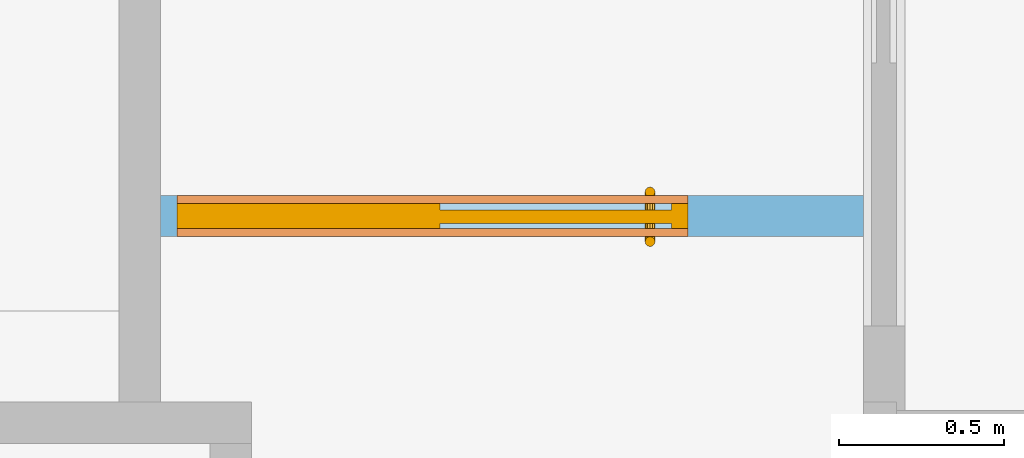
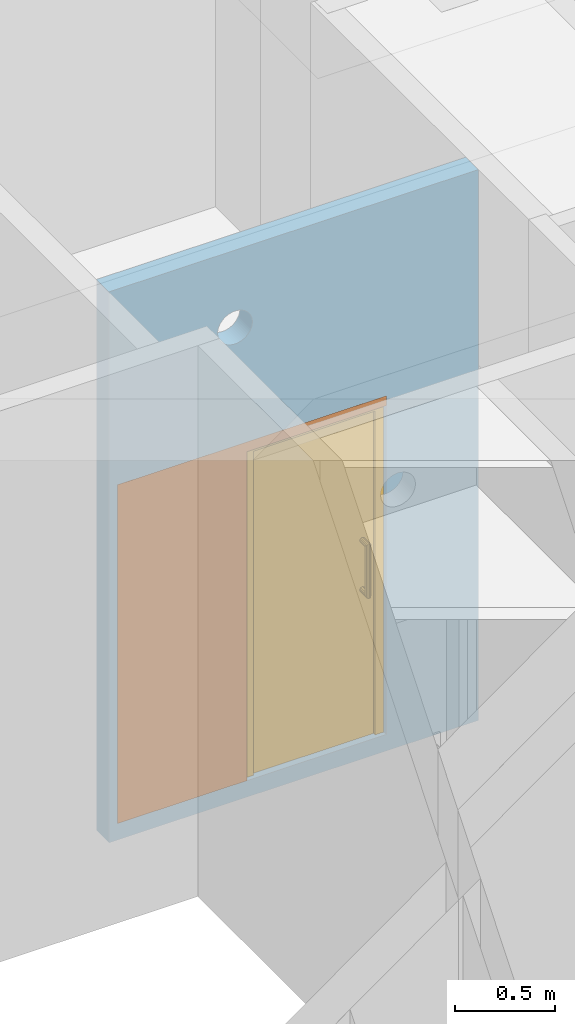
# One storey, part 98 of 140: 1 door, 1 proxy, 2 openings, plus 1 element that does not belong to this part.
"""IFC4 building model written with IfcOpenShell, lengths in metres."""

from ifc_helpers import new_model, entity, si_unit, converted_unit, derived_unit, frame, frame_2d, origin, origin_with_axes, place, context, subcontext, project, spatial, polyline, rectangle, outline, extrude, closed_shell, open_shell, faceted_brep, surface_model, source, transform, mapped, material, layer, layer_set, layer_usage, type_object, element, fill, save


model = new_model("IFC4")

# Units and contexts
model_context = context("Model", 3, precision=1e-05, world=origin())
body_context = subcontext(model_context, "Body", "Model", "MODEL_VIEW")
ifc_project = project(units=[si_unit("LENGTHUNIT", "METRE"), si_unit("AREAUNIT", "SQUARE_METRE"), si_unit("VOLUMEUNIT", "CUBIC_METRE"), si_unit("MASSUNIT", "GRAM", prefix="KILO"), converted_unit("PLANEANGLEUNIT", "DEGREE", entity("IfcPlaneAngleMeasure", 0.0174532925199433), si_unit("PLANEANGLEUNIT", "RADIAN"), dimensions=[0, 0, 0, 0, 0, 0, 0]), derived_unit("THERMALTRANSMITTANCEUNIT", [(si_unit("POWERUNIT", "WATT"), 1), (si_unit("THERMODYNAMICTEMPERATUREUNIT", "KELVIN"), -1), (si_unit("LENGTHUNIT", "METRE"), -2)]), derived_unit("VOLUMETRICFLOWRATEUNIT", [(si_unit("LENGTHUNIT", "METRE"), 3), (converted_unit("TIMEUNIT", "hour", entity("IfcTimeMeasure", 3600.0), si_unit("TIMEUNIT", "SECOND"), dimensions=[0, 0, 1, 0, 0, 0, 0]), -1), (si_unit("LENGTHUNIT", "METRE"), -1)])], contexts=[model_context])

# Site, building, storey
site_placement = place(None, origin())
site = spatial("IfcSite", under=ifc_project, at=site_placement, Name="3. ASŘ", CompositionType="ELEMENT")
building_placement = place(site_placement, origin())
building = spatial("IfcBuilding", under=site, at=building_placement, Name="Pavilon C", CompositionType="ELEMENT")
storey_placement = place(building_placement, origin())
storey = spatial("IfcBuildingStorey", under=building, at=storey_placement, Name="Půdorys 1.NP", CompositionType="ELEMENT", Elevation=0.0)

# Wall, openings, door, proxy
ifc_material_1 = material(Name="SDK - 1 KCE + DVOJITÉ OPLÁŠTĚNÍ")
ifc_layer = layer(ifc_material_1, 0.125)
ifc_layer_set = layer_set([ifc_layer])
ifc_layer_usage = layer_usage(ifc_layer_set, "AXIS2", "POSITIVE", 0.0)
wall_placement = place(storey_placement, frame((39.625, 20.25, -0.1), z_axis=(0.0, 0.0, 1.0), x_axis=(-1.0, 0.0, 0.0)))
wall = element("IfcWall", 1, at=wall_placement, inside=storey, material=ifc_layer_usage, Name="SDK - 1 KCE + DVOJITÉ OPLÁŠTĚNÍ", context=body_context, shape_type="SweptSolid", body=[
    extrude(rectangle(XDim=2.125, YDim=0.125, at=frame_2d((1.0625, 0.0625), x_axis=(1.0, 0.0))), origin_with_axes(), (0.0, 0.0, 1.0), 3.35),
])
opening_1_placement = place(wall_placement, frame((0.53, 0.0, 0.1), z_axis=(0.0, 1.0, 0.0), x_axis=(0.0, 0.0, 1.0)))
opening_1 = element("IfcOpeningElement", 2, at=opening_1_placement, cuts=wall, Name="Dveřní otvor", ObjectType="Opening", context=body_context, shape_type="SweptSolid", body=[
    extrude(outline(polyline([(0.0, 1.545), (2.06, 1.545), (2.06, 0.0), (0.0, 0.0), (0.0, 1.545)])), origin_with_axes(), (0.0, 0.0, 1.0), 0.125),
])
opening_2_placement = place(wall_placement, frame((1.5, 0.125, 2.78), z_axis=(0.0, -1.0, 0.0), x_axis=(0.0, 0.0, 1.0)))
element("IfcOpeningElement", 3, at=opening_2_placement, cuts=wall, Name="VZT", ObjectType="Opening", context=body_context, shape_type="SweptSolid", body=[
    extrude(outline(polyline([(0.0999999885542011, 0.0), (0.0895471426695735, 0.000547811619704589), (0.0792088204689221, 0.00218524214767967), (0.0690982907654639, 0.0048943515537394), (0.0593263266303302, 0.00864545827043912), (0.0499999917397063, 0.0133974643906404), (0.0412214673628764, 0.0190983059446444), (0.0330869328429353, 0.0256855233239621), (0.0256855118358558, 0.0330869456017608), (0.0190982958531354, 0.0412214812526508), (0.0133974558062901, 0.0500000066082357), (0.00864545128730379, 0.0593263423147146), (0.00489434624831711, 0.0690983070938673), (0.00218523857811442, 0.0792088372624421), (0.000547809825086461, 0.0895471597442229), (0.0, 0.100000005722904), (0.000547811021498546, 0.110452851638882), (0.00218524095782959, 0.120791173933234), (0.00489434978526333, 0.130901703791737), (0.00864545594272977, 0.140673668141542), (0.0133974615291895, 0.150000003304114), (0.0190983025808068, 0.158778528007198), (0.0256855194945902, 0.166913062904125), (0.0330869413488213, 0.174314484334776), (0.0412214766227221, 0.180901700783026), (0.0500000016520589, 0.186602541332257), (0.0593263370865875, 0.191354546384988), (0.0690983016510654, 0.195105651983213), (0.0792088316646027, 0.197814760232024), (0.0895471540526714, 0.19945218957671), (0.1, 0.2), (0.110452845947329, 0.19945218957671), (0.120791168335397, 0.197814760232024), (0.130901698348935, 0.195105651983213), (0.140673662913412, 0.191354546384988), (0.149999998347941, 0.186602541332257), (0.158778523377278, 0.180901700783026), (0.166913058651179, 0.174314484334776), (0.17431448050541, 0.166913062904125), (0.180901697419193, 0.158778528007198), (0.18660253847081, 0.150000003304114), (0.19135454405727, 0.140673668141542), (0.195105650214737, 0.130901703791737), (0.19781475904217, 0.120791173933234), (0.199452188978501, 0.110452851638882), (0.2, 0.100000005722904), (0.199452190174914, 0.0895471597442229), (0.197814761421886, 0.0792088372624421), (0.195105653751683, 0.0690983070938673), (0.191354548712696, 0.0593263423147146), (0.18660254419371, 0.0500000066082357), (0.180901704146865, 0.0412214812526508), (0.174314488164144, 0.0330869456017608), (0.166913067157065, 0.0256855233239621), (0.158778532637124, 0.0190983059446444), (0.150000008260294, 0.0133974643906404), (0.14067367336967, 0.00864545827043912), (0.130901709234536, 0.0048943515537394), (0.120791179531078, 0.00218524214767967), (0.110452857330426, 0.000547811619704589), (0.0999999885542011, 0.0)])), origin_with_axes(), (0.0, 0.0, 1.0), 0.125),
])
door_type = type_object("IfcDoorType", Name="I.DP06", OperationType="NOTDEFINED", ParameterTakesPrecedence=False, PredefinedType="DOOR")
shared_shape = source(origin_with_axes(), body_context, "Body", "SurfaceModel", [
    surface_model("IfcShellBasedSurfaceModel", [(0.0, 0.13, 2.06), (0.0, 0.13, -4.59242549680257e-18), (0.795, 0.13, -4.59242549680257e-18), (0.795, 0.13, 2.06), (0.0, 0.0549999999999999, 4.59242549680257e-18), (0.0, 0.0550000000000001, 2.06), (0.795, 0.0550000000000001, 2.06), (0.795, 0.0549999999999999, 4.59242549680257e-18)], [closed_shell([[[0, 1, 2, 3]], [[4, 5, 6, 7]], [[1, 0, 5, 4]], [[2, 1, 4, 7]], [[3, 2, 7, 6]], [[0, 3, 6, 5]]], orient=[[False], [False], [False], [False], [False], [False]])]),
    surface_model("IfcShellBasedSurfaceModel", [(1.495, 0.13, 2.06), (1.495, 0.13, -4.59242549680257e-18), (1.545, 0.13, -4.59242549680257e-18), (1.545, 0.13, 2.06), (1.495, 0.0549999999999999, 4.59242549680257e-18), (1.495, 0.0550000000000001, 2.06), (1.545, 0.0550000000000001, 2.06), (1.545, 0.0549999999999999, 4.59242549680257e-18)], [closed_shell([[[0, 1, 2, 3]], [[4, 5, 6, 7]], [[1, 0, 5, 4]], [[2, 1, 4, 7]], [[3, 2, 7, 6]], [[0, 3, 6, 5]]], orient=[[False], [False], [False], [False], [False], [False]])]),
    surface_model("IfcShellBasedSurfaceModel", [(0.795, 0.13, 2.06), (0.795, 0.13, 1.97), (1.495, 0.13, 1.97), (1.495, 0.13, 2.06), (0.795, 0.0550000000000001, 1.97), (0.795, 0.0550000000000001, 2.06), (1.495, 0.0550000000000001, 2.06), (1.495, 0.0550000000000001, 1.97)], [closed_shell([[[0, 1, 2, 3]], [[4, 5, 6, 7]], [[1, 0, 5, 4]], [[2, 1, 4, 7]], [[3, 2, 7, 6]], [[0, 3, 6, 5]]], orient=[[False], [False], [False], [False], [False], [False]])]),
    surface_model("IfcShellBasedSurfaceModel", [(0.795, 0.11, 1.97), (0.795, 0.11, -2.14313189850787e-18), (1.495, 0.11, -2.14313189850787e-18), (1.495, 0.11, 1.97), (0.795, 0.0699999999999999, 2.75545529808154e-18), (0.795, 0.0700000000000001, 1.97), (1.495, 0.0700000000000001, 1.97), (1.495, 0.0699999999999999, 2.75545529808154e-18)], [closed_shell([[[0, 1, 2, 3]], [[4, 5, 6, 7]], [[1, 0, 5, 4]], [[2, 1, 4, 7]], [[3, 2, 7, 6]], [[0, 3, 6, 5]]], orient=[[False], [False], [False], [False], [False], [False]])]),
    surface_model("IfcShellBasedSurfaceModel", [(1.445, 0.07, 1.2), (1.44299038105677, 0.07, 1.2075), (1.4375, 0.07, 1.21299038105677), (1.43, 0.07, 1.215), (1.4225, 0.07, 1.21299038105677), (1.41700961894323, 0.07, 1.2075), (1.415, 0.07, 1.2), (1.41700961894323, 0.07, 1.1925), (1.4225, 0.07, 1.18700961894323), (1.43, 0.07, 1.185), (1.4375, 0.07, 1.18700961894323), (1.44299038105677, 0.07, 1.1925), (1.445, 0.015, 1.2), (1.44299038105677, 0.00750000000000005, 1.2075), (1.4375, 0.00200961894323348, 1.21299038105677), (1.43, 5.6843418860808e-17, 1.215), (1.4225, 0.00200961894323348, 1.21299038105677), (1.41700961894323, 0.00750000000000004, 1.2075), (1.415, 0.015, 1.2), (1.41700961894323, 0.0225, 1.1925), (1.4225, 0.0279903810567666, 1.18700961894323), (1.43, 0.03, 1.185), (1.4375, 0.0279903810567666, 1.18700961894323), (1.44299038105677, 0.0225000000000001, 1.1925), (1.445, 0.015, 0.9), (1.44299038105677, 0.0075, 0.8925), (1.4375, 0.00200961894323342, 0.887009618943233), (1.43, 0.0, 0.885), (1.4225, 0.00200961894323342, 0.887009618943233), (1.41700961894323, 0.00749999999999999, 0.8925), (1.415, 0.015, 0.9), (1.41700961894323, 0.0225, 0.9075), (1.4225, 0.0279903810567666, 0.912990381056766), (1.43, 0.03, 0.915), (1.4375, 0.0279903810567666, 0.912990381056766), (1.44299038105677, 0.0225, 0.9075), (1.445, 0.07, 0.9), (1.44299038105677, 0.07, 0.8925), (1.4375, 0.07, 0.887009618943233), (1.43, 0.07, 0.885), (1.4225, 0.07, 0.887009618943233), (1.41700961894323, 0.07, 0.8925), (1.415, 0.07, 0.9), (1.41700961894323, 0.07, 0.9075), (1.4225, 0.07, 0.912990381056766), (1.43, 0.07, 0.915), (1.4375, 0.07, 0.912990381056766), (1.44299038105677, 0.07, 0.9075)], [open_shell([[[0, 1, 2, 3, 4, 5, 6, 7, 8, 9, 10, 11]], [[0, 12, 13, 1]], [[1, 13, 14, 2]], [[2, 14, 15, 3]], [[3, 15, 16, 4]], [[4, 16, 17, 5]], [[5, 17, 18, 6]], [[6, 18, 19, 7]], [[7, 19, 20, 8]], [[8, 20, 21, 9]], [[9, 21, 22, 10]], [[10, 22, 23, 11]], [[11, 23, 12, 0]], [[12, 24, 25, 13]], [[13, 25, 26, 14]], [[14, 26, 27, 15]], [[15, 27, 28, 16]], [[16, 28, 29, 17]], [[17, 29, 30, 18]], [[18, 30, 31, 19]], [[19, 31, 32, 20]], [[20, 32, 33, 21]], [[21, 33, 34, 22]], [[22, 34, 35, 23]], [[23, 35, 24, 12]], [[24, 36, 37, 25]], [[25, 37, 38, 26]], [[26, 38, 39, 27]], [[27, 39, 40, 28]], [[28, 40, 41, 29]], [[29, 41, 42, 30]], [[30, 42, 43, 31]], [[31, 43, 44, 32]], [[32, 44, 45, 33]], [[33, 45, 46, 34]], [[34, 46, 47, 35]], [[35, 47, 36, 24]]], orient=[[False], [False], [False], [False], [False], [False], [False], [False], [False], [False], [False], [False], [False], [False], [False], [False], [False], [False], [False], [False], [False], [False], [False], [False], [False], [False], [False], [False], [False], [False], [False], [False], [False], [False], [False], [False], [False]])]),
    surface_model("IfcShellBasedSurfaceModel", [(1.445, 0.11, 1.2), (1.44299038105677, 0.11, 1.1925), (1.4375, 0.11, 1.18700961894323), (1.43, 0.11, 1.185), (1.4225, 0.11, 1.18700961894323), (1.41700961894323, 0.11, 1.1925), (1.415, 0.11, 1.2), (1.41700961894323, 0.11, 1.2075), (1.4225, 0.11, 1.21299038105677), (1.43, 0.11, 1.215), (1.4375, 0.11, 1.21299038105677), (1.44299038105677, 0.11, 1.2075), (1.44299038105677, 0.1725, 1.2075), (1.445, 0.165, 1.2), (1.4375, 0.177990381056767, 1.21299038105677), (1.43, 0.18, 1.215), (1.4225, 0.177990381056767, 1.21299038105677), (1.41700961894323, 0.1725, 1.2075), (1.415, 0.165, 1.2), (1.41700961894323, 0.1575, 1.1925), (1.4225, 0.152009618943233, 1.18700961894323), (1.43, 0.15, 1.185), (1.4375, 0.152009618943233, 1.18700961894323), (1.44299038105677, 0.1575, 1.1925), (1.44299038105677, 0.1725, 0.8925), (1.445, 0.165, 0.9), (1.4375, 0.177990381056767, 0.887009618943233), (1.43, 0.18, 0.885), (1.4225, 0.177990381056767, 0.887009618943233), (1.41700961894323, 0.1725, 0.8925), (1.415, 0.165, 0.9), (1.41700961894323, 0.1575, 0.9075), (1.4225, 0.152009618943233, 0.912990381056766), (1.43, 0.15, 0.915), (1.4375, 0.152009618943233, 0.912990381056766), (1.44299038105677, 0.1575, 0.9075), (1.44299038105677, 0.11, 0.8925), (1.445, 0.11, 0.9), (1.4375, 0.11, 0.887009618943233), (1.43, 0.11, 0.885), (1.4225, 0.11, 0.887009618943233), (1.41700961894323, 0.11, 0.8925), (1.415, 0.11, 0.9), (1.41700961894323, 0.11, 0.9075), (1.4225, 0.11, 0.912990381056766), (1.43, 0.11, 0.915), (1.4375, 0.11, 0.912990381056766), (1.44299038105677, 0.11, 0.9075)], [open_shell([[[0, 1, 2, 3, 4, 5, 6, 7, 8, 9, 10, 11]], [[0, 11, 12, 13]], [[11, 10, 14, 12]], [[10, 9, 15, 14]], [[9, 8, 16, 15]], [[8, 7, 17, 16]], [[7, 6, 18, 17]], [[6, 5, 19, 18]], [[5, 4, 20, 19]], [[4, 3, 21, 20]], [[3, 2, 22, 21]], [[2, 1, 23, 22]], [[1, 0, 13, 23]], [[13, 12, 24, 25]], [[12, 14, 26, 24]], [[14, 15, 27, 26]], [[15, 16, 28, 27]], [[16, 17, 29, 28]], [[17, 18, 30, 29]], [[18, 19, 31, 30]], [[19, 20, 32, 31]], [[20, 21, 33, 32]], [[21, 22, 34, 33]], [[22, 23, 35, 34]], [[23, 13, 25, 35]], [[25, 24, 36, 37]], [[24, 26, 38, 36]], [[26, 27, 39, 38]], [[27, 28, 40, 39]], [[28, 29, 41, 40]], [[29, 30, 42, 41]], [[30, 31, 43, 42]], [[31, 32, 44, 43]], [[32, 33, 45, 44]], [[33, 34, 46, 45]], [[34, 35, 47, 46]], [[35, 25, 37, 47]]], orient=[[False], [False], [False], [False], [False], [False], [False], [False], [False], [False], [False], [False], [False], [False], [False], [False], [False], [False], [False], [False], [False], [False], [False], [False], [False], [False], [False], [False], [False], [False], [False], [False], [False], [False], [False], [False], [False]])]),
])
door_placement = place(opening_1_placement, frame((0.0, 1.545, 0.155), z_axis=(1.0, 0.0, 0.0), x_axis=(0.0, -1.0, 2.44929359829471e-16)))
door = element("IfcDoor", 4, at=door_placement, inside=storey, type_object=door_type, Name="I.DP06", OverallHeight=2.06, OverallWidth=1.545, context=body_context, shape_type="MappedRepresentation", body=[
    mapped(shared_shape, transform((0.0, 0.0, 0.0), x_axis=(1.0, 0.0, 0.0), y_axis=(0.0, 1.0, 0.0), z_axis=(0.0, 0.0, 1.0), scale=1.0)),
])
fill(opening_1, door)
ifc_material_2 = material(Name="SDK - 1 KCE + DVOJITÉ OPLÁŠTĚNÍ")
proxy_placement = place(opening_1_placement, frame((0.0, 1.545, 0.125)))
proxy = element("IfcBuildingElementProxy", 5, at=proxy_placement, inside=storey, material=ifc_material_2, context=body_context, shape_type="Brep", body=[
    faceted_brep([(0.0, -0.745, -0.125), (0.0, -0.745, -0.1), (2.0, -0.745, -0.1), (2.0, -0.745, -0.125), (0.0, 0.0, -0.1), (0.0, 0.0, -0.125), (2.06, 0.0, -0.125), (2.06, 0.0, -0.1), (2.0, -1.545, -0.1), (2.06, -1.545, -0.1), (2.0, -1.545, -0.125), (2.06, -1.545, -0.125), (0.0, 0.0, -7.105427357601e-18), (0.0, 0.0, -0.025), (2.06, 0.0, -0.025), (2.06, 0.0, -7.105427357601e-18), (2.06, -1.545, -0.025), (2.06, -1.545, -7.105427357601e-18), (0.0, -0.745, -7.105427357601e-18), (0.0, -0.745, -0.025), (2.0, -1.545, -7.105427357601e-18), (2.0, -0.745, -7.105427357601e-18), (2.0, -0.745, -0.025), (2.0, -1.545, -0.025)], [[[0, 1, 2, 3]], [[4, 5, 6, 7]], [[0, 5, 4, 1]], [[8, 2, 1, 4, 7, 9]], [[10, 11, 6, 5, 0, 3]], [[10, 8, 9, 11]], [[11, 9, 7, 6]], [[8, 10, 3, 2]], [[12, 13, 14, 15]], [[15, 14, 16, 17]], [[12, 18, 19, 13]], [[18, 12, 15, 17, 20, 21]], [[13, 19, 22, 23, 16, 14]], [[19, 18, 21, 22]], [[23, 20, 17, 16]], [[22, 21, 20, 23]]], orient=[[False], [False], [False], [False], [False], [False], [False], [False], [False], [False], [False], [False], [False], [False], [False], [False]]),
])
fill(opening_1, proxy)

save(model, "model.ifc")
